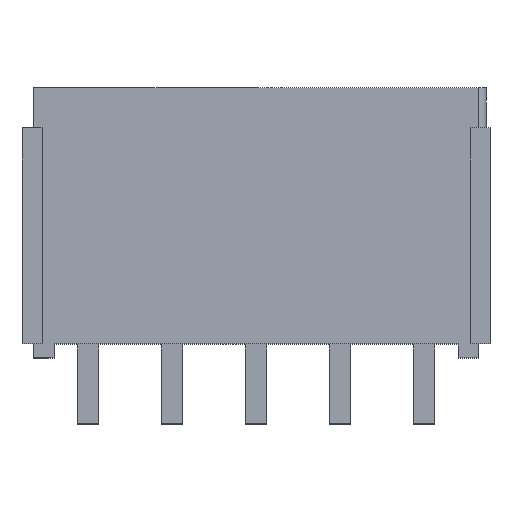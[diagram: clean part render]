
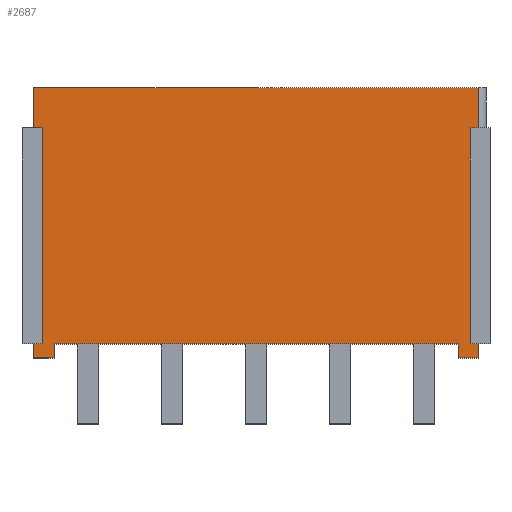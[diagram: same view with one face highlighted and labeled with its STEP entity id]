
A CAD part, top view. The second image highlights one B-rep face of the part: STEP entity #2687.
In plain terms, the highlighted planar face has unit normal (0, 0, 1).
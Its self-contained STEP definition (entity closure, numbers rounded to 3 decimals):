
#5=DIRECTION('',(0.,-1.,0.));
#6=VECTOR('',#5,0.7);
#7=CARTESIAN_POINT('',(-11.1,0.7,4.8));
#8=LINE('',#7,#6);
#29=DIRECTION('',(0.,-1.,0.));
#30=VECTOR('',#29,2.);
#31=CARTESIAN_POINT('',(-11.1,13.5,4.8));
#32=LINE('',#31,#30);
#105=DIRECTION('',(1.,0.,0.));
#106=VECTOR('',#105,0.4);
#107=CARTESIAN_POINT('',(-11.1,0.7,4.8));
#108=LINE('',#107,#106);
#109=DIRECTION('',(0.,1.,0.));
#110=VECTOR('',#109,10.8);
#111=CARTESIAN_POINT('',(-10.7,0.7,4.8));
#112=LINE('',#111,#110);
#113=DIRECTION('',(1.,0.,0.));
#114=VECTOR('',#113,0.4);
#115=CARTESIAN_POINT('',(-11.1,11.5,4.8));
#116=LINE('',#115,#114);
#117=DIRECTION('',(1.,0.,0.));
#118=VECTOR('',#117,22.2);
#119=CARTESIAN_POINT('',(-11.1,13.5,4.8));
#120=LINE('',#119,#118);
#121=DIRECTION('',(1.,0.,0.));
#122=VECTOR('',#121,0.4);
#123=CARTESIAN_POINT('',(10.7,11.5,4.8));
#124=LINE('',#123,#122);
#125=DIRECTION('',(0.,1.,0.));
#126=VECTOR('',#125,10.8);
#127=CARTESIAN_POINT('',(10.7,0.7,4.8));
#128=LINE('',#127,#126);
#129=DIRECTION('',(1.,0.,0.));
#130=VECTOR('',#129,0.4);
#131=CARTESIAN_POINT('',(10.7,0.7,4.8));
#132=LINE('',#131,#130);
#133=DIRECTION('',(0.,1.,0.));
#134=VECTOR('',#133,0.7);
#135=CARTESIAN_POINT('',(10.1,0.,4.8));
#136=LINE('',#135,#134);
#137=DIRECTION('',(-1.,0.,0.));
#138=VECTOR('',#137,20.2);
#139=CARTESIAN_POINT('',(10.1,0.7,4.8));
#140=LINE('',#139,#138);
#141=DIRECTION('',(0.,1.,0.));
#142=VECTOR('',#141,0.7);
#143=CARTESIAN_POINT('',(-10.1,0.,4.8));
#144=LINE('',#143,#142);
#586=DIRECTION('',(1.,0.,0.));
#587=VECTOR('',#586,1.);
#588=CARTESIAN_POINT('',(-11.1,0.,4.8));
#589=LINE('',#588,#587);
#602=DIRECTION('',(1.,0.,0.));
#603=VECTOR('',#602,1.);
#604=CARTESIAN_POINT('',(10.1,0.,4.8));
#605=LINE('',#604,#603);
#646=DIRECTION('',(0.,-1.,0.));
#647=VECTOR('',#646,0.7);
#648=CARTESIAN_POINT('',(11.1,0.7,4.8));
#649=LINE('',#648,#647);
#662=DIRECTION('',(0.,-1.,0.));
#663=VECTOR('',#662,2.);
#664=CARTESIAN_POINT('',(11.1,13.5,4.8));
#665=LINE('',#664,#663);
#1904=CARTESIAN_POINT('',(-11.1,13.5,4.8));
#1906=VERTEX_POINT('',#1904);
#1907=CARTESIAN_POINT('',(11.1,13.5,4.8));
#1908=VERTEX_POINT('',#1907);
#2027=CARTESIAN_POINT('',(-10.1,0.,4.8));
#2028=CARTESIAN_POINT('',(-10.1,0.7,4.8));
#2029=VERTEX_POINT('',#2027);
#2030=VERTEX_POINT('',#2028);
#2031=CARTESIAN_POINT('',(10.1,0.,4.8));
#2032=CARTESIAN_POINT('',(10.1,0.7,4.8));
#2033=VERTEX_POINT('',#2031);
#2034=VERTEX_POINT('',#2032);
#2035=CARTESIAN_POINT('',(-11.1,0.,4.8));
#2036=VERTEX_POINT('',#2035);
#2037=CARTESIAN_POINT('',(11.1,0.,4.8));
#2038=VERTEX_POINT('',#2037);
#2251=CARTESIAN_POINT('',(-11.1,0.7,4.8));
#2253=VERTEX_POINT('',#2251);
#2255=CARTESIAN_POINT('',(-11.1,11.5,4.8));
#2257=VERTEX_POINT('',#2255);
#2259=CARTESIAN_POINT('',(11.1,0.7,4.8));
#2261=VERTEX_POINT('',#2259);
#2263=CARTESIAN_POINT('',(11.1,11.5,4.8));
#2265=VERTEX_POINT('',#2263);
#2267=CARTESIAN_POINT('',(-10.7,0.7,4.8));
#2268=VERTEX_POINT('',#2267);
#2269=CARTESIAN_POINT('',(10.7,0.7,4.8));
#2270=VERTEX_POINT('',#2269);
#2271=CARTESIAN_POINT('',(-10.7,11.5,4.8));
#2272=VERTEX_POINT('',#2271);
#2273=CARTESIAN_POINT('',(10.7,11.5,4.8));
#2274=VERTEX_POINT('',#2273);
#2654=CARTESIAN_POINT('',(-11.1,13.5,4.8));
#2655=DIRECTION('',(0.,0.,1.));
#2656=DIRECTION('',(0.,-1.,0.));
#2657=AXIS2_PLACEMENT_3D('',#2654,#2655,#2656);
#2658=PLANE('',#2657);
#2659=ORIENTED_EDGE('',*,*,#2577,.T.);
#2661=ORIENTED_EDGE('',*,*,#2660,.T.);
#2662=ORIENTED_EDGE('',*,*,#2622,.F.);
#2663=ORIENTED_EDGE('',*,*,#2554,.F.);
#2665=ORIENTED_EDGE('',*,*,#2664,.T.);
#2667=ORIENTED_EDGE('',*,*,#2666,.T.);
#2668=ORIENTED_EDGE('',*,*,#2649,.F.);
#2670=ORIENTED_EDGE('',*,*,#2669,.F.);
#2671=ORIENTED_EDGE('',*,*,#2589,.T.);
#2673=ORIENTED_EDGE('',*,*,#2672,.T.);
#2675=ORIENTED_EDGE('',*,*,#2674,.F.);
#2677=ORIENTED_EDGE('',*,*,#2676,.T.);
#2679=ORIENTED_EDGE('',*,*,#2678,.T.);
#2681=ORIENTED_EDGE('',*,*,#2680,.F.);
#2683=ORIENTED_EDGE('',*,*,#2682,.F.);
#2684=ORIENTED_EDGE('',*,*,#2542,.F.);
#2685=EDGE_LOOP('',(#2659,#2661,#2662,#2663,#2665,#2667,#2668,#2670,#2671,#2673,
#2675,#2677,#2679,#2681,#2683,#2684));
#2686=FACE_OUTER_BOUND('',#2685,.F.);
#2687=ADVANCED_FACE('',(#2686),#2658,.T.);
#2542=EDGE_CURVE('',#2253,#2036,#8,.T.);
#2554=EDGE_CURVE('',#1906,#2257,#32,.T.);
#2577=EDGE_CURVE('',#2253,#2268,#108,.T.);
#2589=EDGE_CURVE('',#2270,#2261,#132,.T.);
#2622=EDGE_CURVE('',#2257,#2272,#116,.T.);
#2649=EDGE_CURVE('',#2274,#2265,#124,.T.);
#2660=EDGE_CURVE('',#2268,#2272,#112,.T.);
#2664=EDGE_CURVE('',#1906,#1908,#120,.T.);
#2666=EDGE_CURVE('',#1908,#2265,#665,.T.);
#2669=EDGE_CURVE('',#2270,#2274,#128,.T.);
#2672=EDGE_CURVE('',#2261,#2038,#649,.T.);
#2674=EDGE_CURVE('',#2033,#2038,#605,.T.);
#2676=EDGE_CURVE('',#2033,#2034,#136,.T.);
#2678=EDGE_CURVE('',#2034,#2030,#140,.T.);
#2680=EDGE_CURVE('',#2029,#2030,#144,.T.);
#2682=EDGE_CURVE('',#2036,#2029,#589,.T.);
